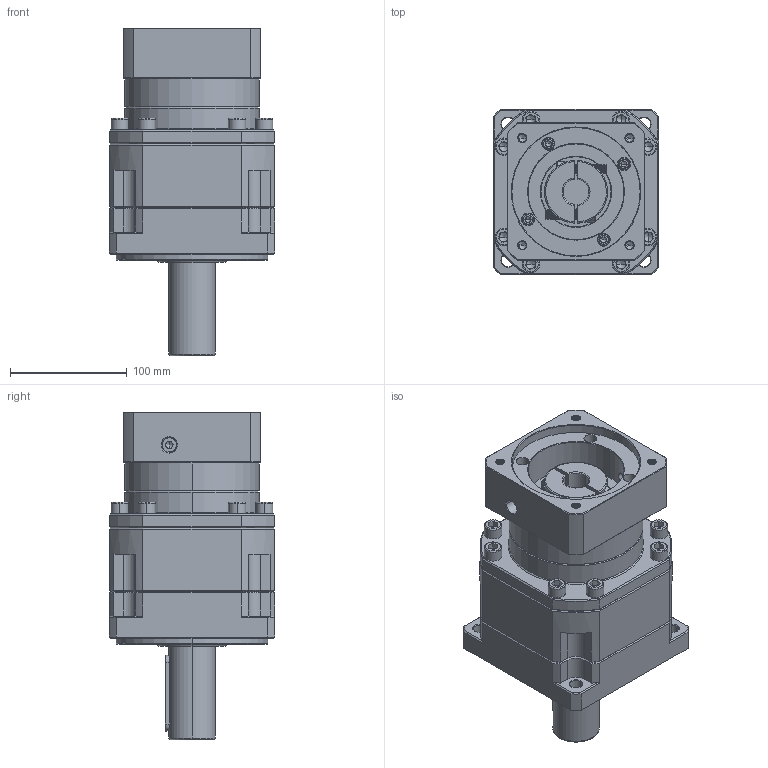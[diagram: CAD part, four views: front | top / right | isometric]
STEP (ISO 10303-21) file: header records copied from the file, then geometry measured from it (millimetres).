
FILE_DESCRIPTION (( 'STEP AP214' ), '1' );
FILE_NAME ('ZB142A-D40-L2-22-110-130-M8.step', '2023-03-18T07:04:20', ( '' ), ( '' ), 'SwSTEP 2.0', 'SolidWorks 2016', '' );
FILE_SCHEMA (( 'AUTOMOTIVE_DESIGN' ));
Length unit declared in the file: millimetre
Products named in the file (1): ZB142A-D40-L2-22-110-130-M8
Bounding box: 142 x 142 x 280.7 mm (x, y, z)
Volume: 2941229 mm3; surface area: 239142.5 mm2
Topology: 6 solids, 6 shells, 2281 faces, 5897 edges, 3737 vertices
Faces by surface type: plane 1025, cylinder 490, cone 401, bspline 327, torus 38
Entity records: 120423 total; most frequent: CARTESIAN_POINT 42343, ORIENTED_EDGE 11686, DIRECTION 9920, EDGE_CURVE 5843, VERTEX_POINT 3737, VECTOR 3600, LINE 3600, AXIS2_PLACEMENT_3D 3160
